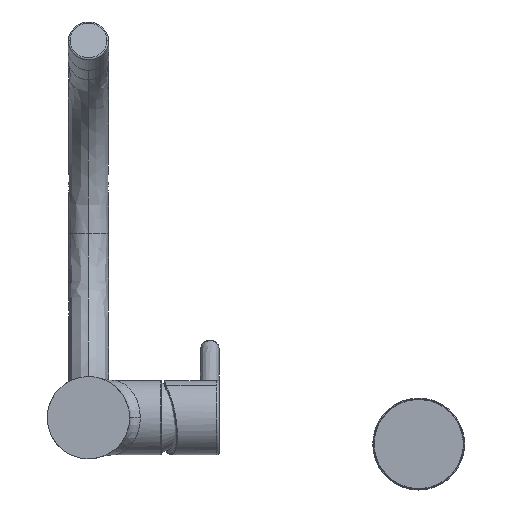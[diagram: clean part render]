
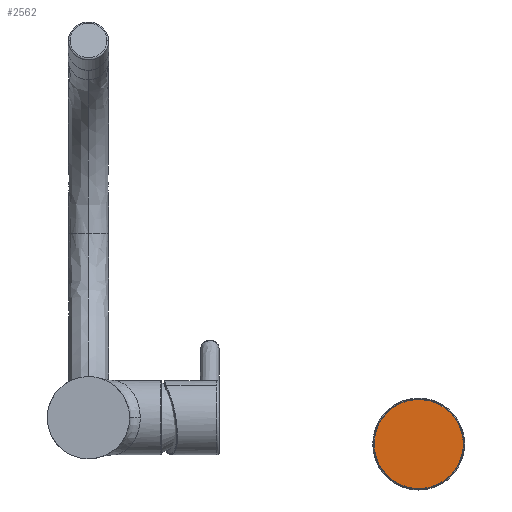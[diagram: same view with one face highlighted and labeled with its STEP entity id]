
A CAD part, front view. The second image highlights one B-rep face of the part: STEP entity #2562.
In plain terms, the highlighted planar face has unit normal (0, -1, 0).
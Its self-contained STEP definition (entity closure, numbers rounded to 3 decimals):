
#30 = CARTESIAN_POINT ( 'NONE',  ( 204.568, -6.1, 2.915 ) ) ;
#868 = EDGE_CURVE ( 'NONE', #8184, #4657, #4312, .T. ) ;
#1449 = CARTESIAN_POINT ( 'NONE',  ( 186.749, -6.1, -14.904 ) ) ;
#1502 = DIRECTION ( 'NONE',  ( 0., -1., 0. ) ) ;
#1610 = DIRECTION ( 'NONE',  ( 0., -1., 0. ) ) ;
#2174 = CARTESIAN_POINT ( 'NONE',  ( 186.749, -6.1, -14.904 ) ) ;
#2279 = DIRECTION ( 'NONE',  ( 0.707, 0., 0.707 ) ) ;
#2562 = ADVANCED_FACE ( 'NONE', ( #7697 ), #6737, .T. ) ;
#2829 = DIRECTION ( 'NONE',  ( 0.707, 0., 0.707 ) ) ;
#3510 = ORIENTED_EDGE ( 'NONE', *, *, #8232, .T. ) ;
#4101 = AXIS2_PLACEMENT_3D ( 'NONE', #1449, #1502, #6001 ) ;
#4141 = CARTESIAN_POINT ( 'NONE',  ( 186.749, -6.1, -14.904 ) ) ;
#4181 = DIRECTION ( 'NONE',  ( 0., -1., 0. ) ) ;
#4312 = CIRCLE ( 'NONE', #4101, 25.2 ) ;
#4657 = VERTEX_POINT ( 'NONE', #8108 ) ;
#4798 = AXIS2_PLACEMENT_3D ( 'NONE', #4141, #1610, #2829 ) ;
#5833 = CIRCLE ( 'NONE', #7976, 25.2 ) ;
#6001 = DIRECTION ( 'NONE',  ( 0.707, 0., 0.707 ) ) ;
#6737 = PLANE ( 'NONE',  #4798 ) ;
#6988 = EDGE_LOOP ( 'NONE', ( #8466, #3510 ) ) ;
#7697 = FACE_OUTER_BOUND ( 'NONE', #6988, .T. ) ;
#7976 = AXIS2_PLACEMENT_3D ( 'NONE', #2174, #4181, #2279 ) ;
#8108 = CARTESIAN_POINT ( 'NONE',  ( 168.93, -6.1, -32.723 ) ) ;
#8184 = VERTEX_POINT ( 'NONE', #30 ) ;
#8232 = EDGE_CURVE ( 'NONE', #4657, #8184, #5833, .T. ) ;
#8466 = ORIENTED_EDGE ( 'NONE', *, *, #868, .T. ) ;
